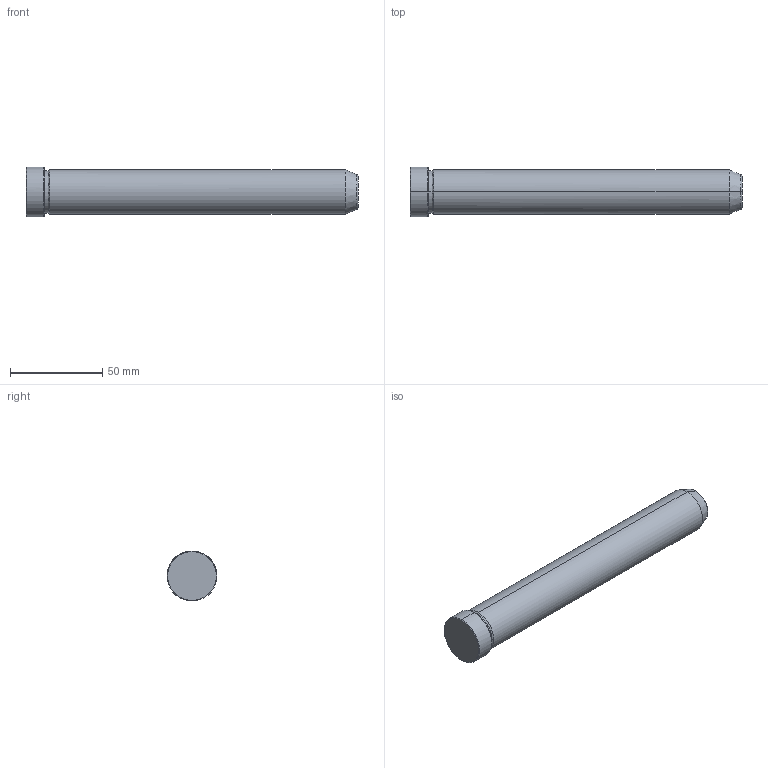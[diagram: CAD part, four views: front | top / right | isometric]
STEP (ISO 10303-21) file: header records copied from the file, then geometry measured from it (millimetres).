
FILE_DESCRIPTION(('CATIA V5 STEP Exchange'),'2;1');
FILE_NAME('C:\Users\Utente\Desktop\IO LAVORO\3D X SITO CF\X SITO\PLASTICA\549\549-24X180.stp','2021-12-17T14:02:49+00:00',('none'),('none'),'CATIA Version 5 Release 20 GA (IN-10)','CATIA V5 STEP AP203','none');
FILE_SCHEMA(('CONFIG_CONTROL_DESIGN'));
Length unit declared in the file: millimetre
Products named in the file (1): 549-24X180
Bounding box: 180 x 27 x 27 mm (x, y, z)
Volume: 81841.9 mm3; surface area: 14596.9 mm2
Topology: 1 solids, 1 shells, 19 faces, 56 edges, 40 vertices
Faces by surface type: cone 8, cylinder 6, plane 3, torus 2
Entity records: 736 total; most frequent: CARTESIAN_POINT 192, ORIENTED_EDGE 112, DIRECTION 86, EDGE_CURVE 56, AXIS2_PLACEMENT_3D 54, VERTEX_POINT 40, CIRCLE 34, EDGE_LOOP 20
